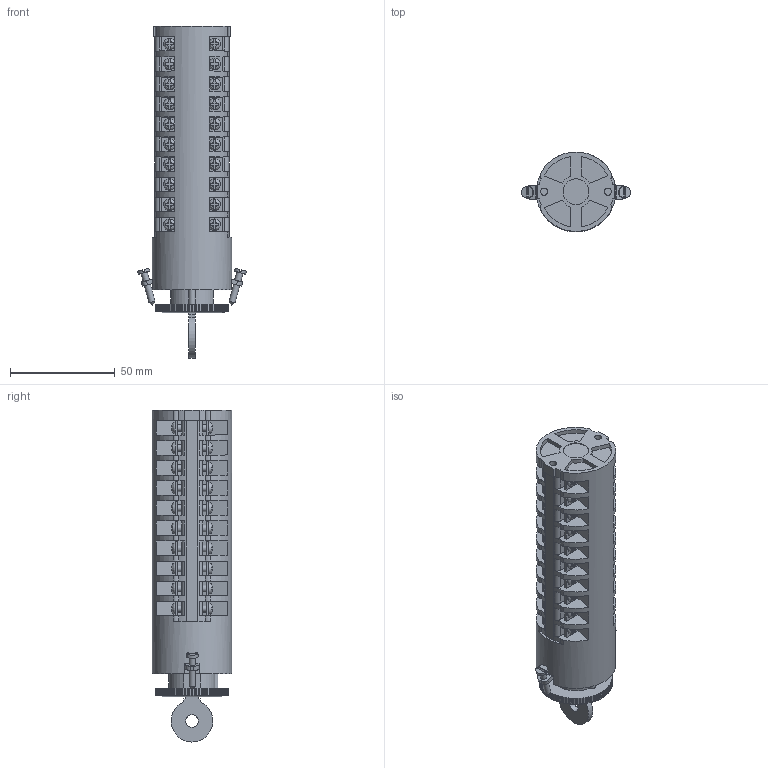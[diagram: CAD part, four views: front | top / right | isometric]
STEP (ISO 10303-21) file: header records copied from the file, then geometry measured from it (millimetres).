
FILE_DESCRIPTION(/* description */ (''),/* implementation_level */ '2;1');
FILE_NAME(/* name */ '4G10-U_wykonanie_S10_10_korpusow.stp',/* time_stamp */ '2021-07-21T08:33:03+02:00',/* author */ (''),/* organization */ (''),/* preprocessor_version */ 'ST-DEVELOPER v18.1',/* originating_system */ 'SIEMENS PLM Software NX 1965',/* authorisation */ '');
FILE_SCHEMA (('AUTOMOTIVE_DESIGN { 1 0 10303 214 3 1 1 1 }'));
Length unit declared in the file: millimetre
Products named in the file (1): 4G10-U_wykonanie_S10_10_korpusow_stp
Bounding box: 51.98 x 38 x 158.68 mm (x, y, z)
Volume: 124543.2 mm3; surface area: 37218.3 mm2
Topology: 1 solids, 3 shells, 1599 faces, 4525 edges, 3028 vertices
Faces by surface type: plane 1301, cylinder 252, bspline 40, cone 4, torus 2
Full cylindrical faces by diameter (mm): 3 x4, 3.2 x40, 3.4 x4, 5.5 x2, 5.6 x2, 6 x1, 12.3 x1, 15.8 x1, 16.1 x1, 38 x1
Entity records: 51788 total; most frequent: CARTESIAN_POINT 11406, ORIENTED_EDGE 8654, DIRECTION 7938, EDGE_CURVE 4327, VERTEX_POINT 2935, LINE 2860, VECTOR 2860, AXIS2_PLACEMENT_3D 2539
